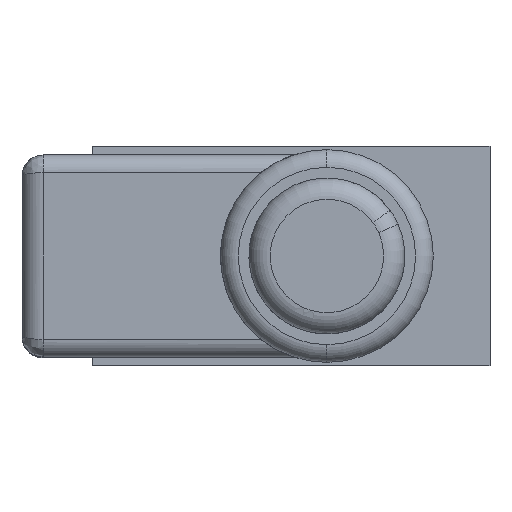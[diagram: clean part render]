
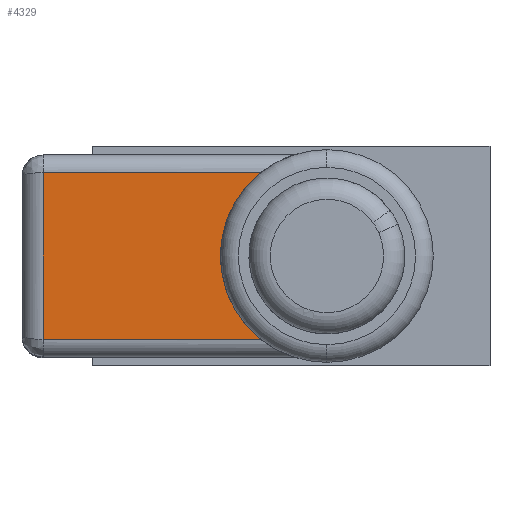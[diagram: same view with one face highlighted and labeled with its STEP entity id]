
A CAD part, left-side view. The second image highlights one B-rep face of the part: STEP entity #4329.
In plain terms, the highlighted planar face has unit normal (-1, 0, 0).
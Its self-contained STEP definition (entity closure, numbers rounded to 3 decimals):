
#931=CARTESIAN_POINT('',(-60.,9.324,3.75));
#1142=DIRECTION('',(0.,-1.,0.));
#1143=VECTOR('',#1142,30.676);
#1144=CARTESIAN_POINT('',(-60.,40.,3.75));
#1145=LINE('',#1144,#1143);
#1219=DIRECTION('',(0.,0.,-1.));
#1220=VECTOR('',#1219,23.5);
#1221=CARTESIAN_POINT('',(-60.,40.,27.25));
#1222=LINE('',#1221,#1220);
#1237=CARTESIAN_POINT('',(-60.,0.,15.5));
#1238=DIRECTION('',(-1.,0.,0.));
#1239=DIRECTION('',(0.,0.622,0.783));
#1240=AXIS2_PLACEMENT_3D('',#1237,#1238,#1239);
#1251=DIRECTION('',(0.,1.,0.));
#1252=VECTOR('',#1251,30.676);
#1253=CARTESIAN_POINT('',(-60.,9.324,27.25));
#1254=LINE('',#1253,#1252);
#2442=VERTEX_POINT('',#931);
#2443=CARTESIAN_POINT('',(-60.,9.324,27.25));
#2444=VERTEX_POINT('',#2443);
#2493=CARTESIAN_POINT('',(-60.,40.,3.75));
#2495=VERTEX_POINT('',#2493);
#2508=CARTESIAN_POINT('',(-60.,40.,27.25));
#2509=VERTEX_POINT('',#2508);
#4317=CARTESIAN_POINT('',(-60.,0.,3.75));
#4318=DIRECTION('',(-1.,0.,0.));
#4319=DIRECTION('',(0.,0.,1.));
#4320=AXIS2_PLACEMENT_3D('',#4317,#4318,#4319);
#4321=PLANE('',#4320);
#4322=ORIENTED_EDGE('',*,*,#4308,.F.);
#4324=ORIENTED_EDGE('',*,*,#4323,.F.);
#4325=ORIENTED_EDGE('',*,*,#3957,.T.);
#4326=ORIENTED_EDGE('',*,*,#4127,.F.);
#4327=EDGE_LOOP('',(#4322,#4324,#4325,#4326));
#4328=FACE_OUTER_BOUND('',#4327,.F.);
#1241=CIRCLE('',#1240,15.);
#3957=EDGE_CURVE('',#2444,#2442,#1241,.T.);
#4127=EDGE_CURVE('',#2495,#2442,#1145,.T.);
#4308=EDGE_CURVE('',#2509,#2495,#1222,.T.);
#4323=EDGE_CURVE('',#2444,#2509,#1254,.T.);
#4329=ADVANCED_FACE('',(#4328),#4321,.T.);
